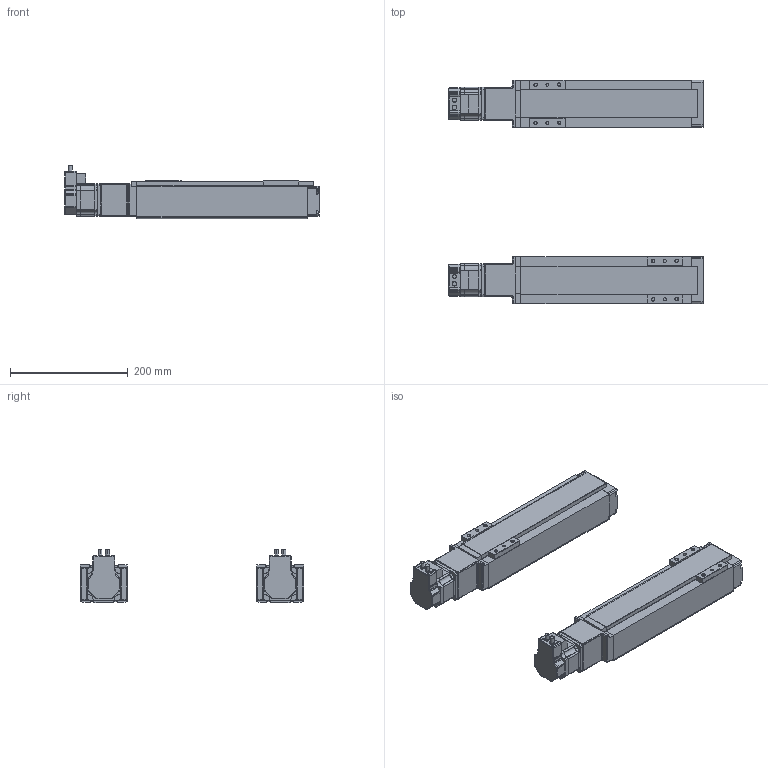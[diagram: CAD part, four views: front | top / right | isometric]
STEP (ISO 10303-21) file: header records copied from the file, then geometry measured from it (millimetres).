
FILE_DESCRIPTION(('FreeCAD Model'),'2;1');
FILE_NAME('Open CASCADE Shape Model','2023-08-01T15:13:23',('Author'),( ''),'Open CASCADE STEP processor 7.5','FreeCAD','Unknown');
FILE_SCHEMA(('AUTOMOTIVE_DESIGN { 1 0 10303 214 1 1 1 1 }'));
Length unit declared in the file: millimetre
Products named in the file (47): Unnamed; Shapes; Shapes001; Shapes002; Shapes003; Shapes004; Shapes005; Shapes006; Shapes007; Shapes008; Shapes009; Shapes010; Shapes011; Shapes012; Shapes013; Shapes014; Shapes015; Shapes016; Shapes017; Shapes018; Shapes019; Shapes020; Shapes021; Shapes022; Shapes023; Shapes024; Shapes025; Shapes026; Shapes027; Shapes028; Shapes029; Shapes030; Shapes031; Shapes032; Shapes033; Shapes034; Shapes035; Shapes036; Shapes037; Shapes038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
Assembly tree (46 placements, depth 2):
  Unnamed
    Shapes
    Shapes001
    Shapes002
    Shapes003
    Shapes004
    Shapes005
    Shapes006
    Shapes007
    Shapes008
    Shapes009
    Shapes010
    Shapes011
    Shapes012
    Shapes013
    Shapes014
    Shapes015
    Shapes016
    Shapes017
    Shapes018
    Shapes019
    Shapes020
    Shapes021
    Shapes022
    Shapes023
    Shapes024
    Shapes025
    Shapes026
    Shapes027
    Shapes028
    Shapes029
    Shapes030
    Shapes031
    Shapes032
    Shapes033
    Shapes034
    Shapes035
    Shapes036
    Shapes037
    Shapes038
    Shapes039
    Shapes040
    Shapes041
    Shapes042
    Shapes043
    Shapes044
    Shapes045
Bounding box: 432.6 x 380 x 91.1 mm (x, y, z)
Volume: 3785656.3 mm3; surface area: 601749.9 mm2
Topology: 46 solids, 46 shells, 1336 faces, 3478 edges, 2228 vertices
Faces by surface type: cylinder 784, plane 406, torus 104, bspline 22, sphere 16, revolution 4
Entity records: 322350 total; most frequent: CARTESIAN_POINT 251677, DIRECTION 13377, LINE 7403, VECTOR 7403, ORIENTED_EDGE 6924, PCURVE 6924, DEFINITIONAL_REPRESENTATION 6924, EDGE_CURVE 3462
